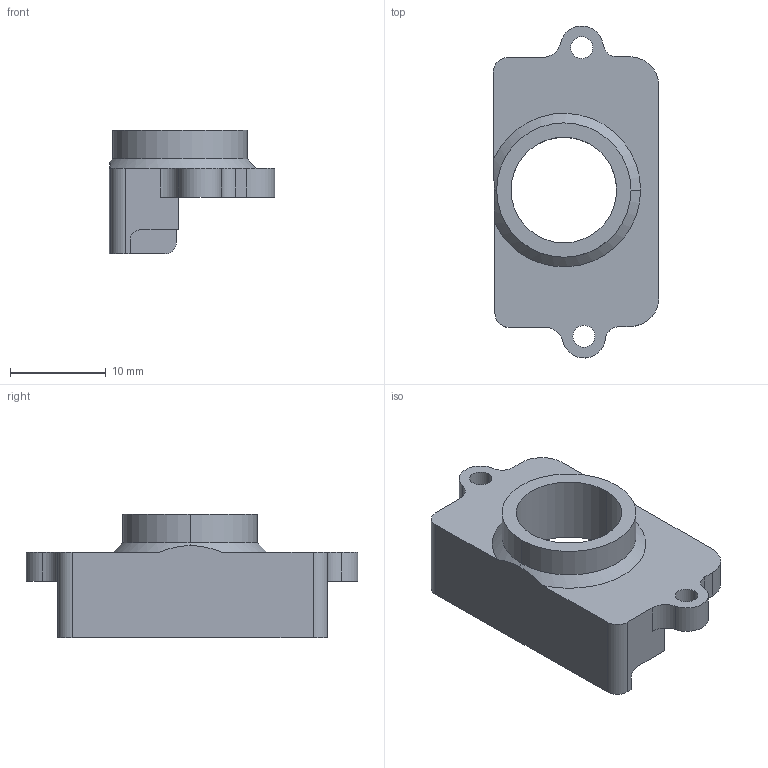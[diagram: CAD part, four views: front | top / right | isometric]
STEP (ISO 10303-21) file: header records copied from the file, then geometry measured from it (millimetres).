
FILE_DESCRIPTION (( 'STEP AP203' ), '1' );
FILE_NAME ('G1手腕相机支架-下装-盖子.STEP', '2025-08-21T06:35:38', ( '' ), ( '' ), 'SwSTEP 2.0', 'SolidWorks 2023', '' );
FILE_SCHEMA (( 'CONFIG_CONTROL_DESIGN' ));
Length unit declared in the file: millimetre
Products named in the file (1): G1手腕相机支架-下装-盖子
Bounding box: 17.27 x 34.6 x 12.9 mm (x, y, z)
Volume: 1764.4 mm3; surface area: 1969.4 mm2
Topology: 1 solids, 1 shells, 40 faces, 112 edges, 74 vertices
Faces by surface type: cylinder 21, plane 17, cone 2
Entity records: 1401 total; most frequent: CARTESIAN_POINT 239, DIRECTION 236, ORIENTED_EDGE 224, EDGE_CURVE 112, AXIS2_PLACEMENT_3D 85, VERTEX_POINT 74, LINE 66, VECTOR 66
